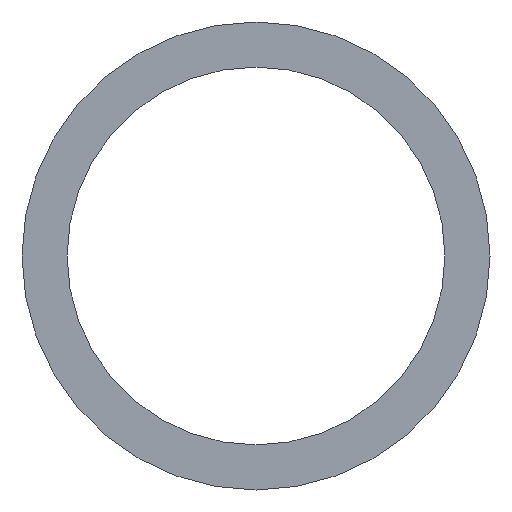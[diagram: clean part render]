
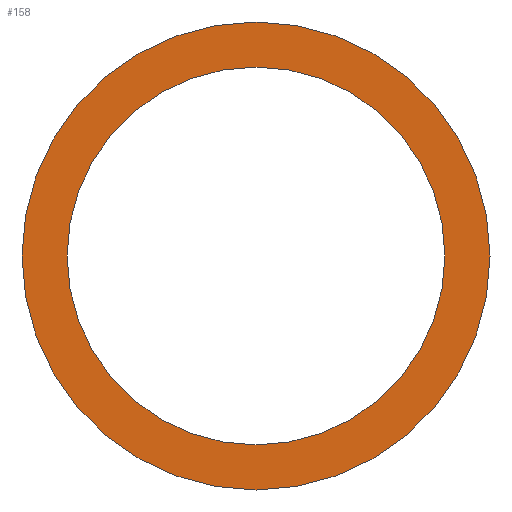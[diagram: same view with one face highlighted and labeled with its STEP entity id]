
A CAD part, front view. The second image highlights one B-rep face of the part: STEP entity #158.
In plain terms, the highlighted planar face has unit normal (0, -1, 0).
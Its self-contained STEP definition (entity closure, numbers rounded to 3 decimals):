
#49 = CYLINDRICAL_SURFACE('',#50,21.8);
#50 = AXIS2_PLACEMENT_3D('',#51,#52,#53);
#51 = CARTESIAN_POINT('',(0.,-39.2,46.5));
#52 = DIRECTION('',(0.,1.,0.));
#53 = DIRECTION('',(0.,-0.,1.));
#74 = VERTEX_POINT('',#75);
#75 = CARTESIAN_POINT('',(0.,-39.2,68.3));
#96 = EDGE_CURVE('',#74,#74,#97,.T.);
#97 = SURFACE_CURVE('',#98,(#103,#110),.PCURVE_S1.);
#98 = CIRCLE('',#99,21.8);
#99 = AXIS2_PLACEMENT_3D('',#100,#101,#102);
#100 = CARTESIAN_POINT('',(0.,-39.2,46.5));
#101 = DIRECTION('',(0.,1.,0.));
#102 = DIRECTION('',(0.,-0.,1.));
#103 = PCURVE('',#49,#104);
#104 = DEFINITIONAL_REPRESENTATION('',(#105),#109);
#105 = LINE('',#106,#107);
#106 = CARTESIAN_POINT('',(0.,0.));
#107 = VECTOR('',#108,1.);
#108 = DIRECTION('',(1.,0.));
#109 = ( GEOMETRIC_REPRESENTATION_CONTEXT(2) 
PARAMETRIC_REPRESENTATION_CONTEXT() REPRESENTATION_CONTEXT('2D SPACE',''
  ) );
#110 = PCURVE('',#111,#116);
#111 = PLANE('',#112);
#112 = AXIS2_PLACEMENT_3D('',#113,#114,#115);
#113 = CARTESIAN_POINT('',(0.,-39.2,46.5));
#114 = DIRECTION('',(0.,1.,0.));
#115 = DIRECTION('',(0.,-0.,1.));
#116 = DEFINITIONAL_REPRESENTATION('',(#117),#121);
#117 = CIRCLE('',#118,21.8);
#118 = AXIS2_PLACEMENT_2D('',#119,#120);
#119 = CARTESIAN_POINT('',(0.,0.));
#120 = DIRECTION('',(1.,0.));
#121 = ( GEOMETRIC_REPRESENTATION_CONTEXT(2) 
PARAMETRIC_REPRESENTATION_CONTEXT() REPRESENTATION_CONTEXT('2D SPACE',''
  ) );
#147 = CYLINDRICAL_SURFACE('',#148,17.6);
#148 = AXIS2_PLACEMENT_3D('',#149,#150,#151);
#149 = CARTESIAN_POINT('',(0.,-39.21,46.5));
#150 = DIRECTION('',(0.,1.,0.));
#151 = DIRECTION('',(0.,-0.,1.));
#158 = ADVANCED_FACE('',(#159,#162),#111,.F.);
#159 = FACE_BOUND('',#160,.F.);
#160 = EDGE_LOOP('',(#161));
#161 = ORIENTED_EDGE('',*,*,#96,.T.);
#162 = FACE_BOUND('',#163,.F.);
#163 = EDGE_LOOP('',(#164));
#164 = ORIENTED_EDGE('',*,*,#165,.F.);
#165 = EDGE_CURVE('',#166,#166,#168,.T.);
#166 = VERTEX_POINT('',#167);
#167 = CARTESIAN_POINT('',(0.,-39.2,64.1));
#168 = SURFACE_CURVE('',#169,(#174,#181),.PCURVE_S1.);
#169 = CIRCLE('',#170,17.6);
#170 = AXIS2_PLACEMENT_3D('',#171,#172,#173);
#171 = CARTESIAN_POINT('',(0.,-39.2,46.5));
#172 = DIRECTION('',(0.,1.,0.));
#173 = DIRECTION('',(0.,-0.,1.));
#174 = PCURVE('',#111,#175);
#175 = DEFINITIONAL_REPRESENTATION('',(#176),#180);
#176 = CIRCLE('',#177,17.6);
#177 = AXIS2_PLACEMENT_2D('',#178,#179);
#178 = CARTESIAN_POINT('',(0.,0.));
#179 = DIRECTION('',(1.,0.));
#180 = ( GEOMETRIC_REPRESENTATION_CONTEXT(2) 
PARAMETRIC_REPRESENTATION_CONTEXT() REPRESENTATION_CONTEXT('2D SPACE',''
  ) );
#181 = PCURVE('',#147,#182);
#182 = DEFINITIONAL_REPRESENTATION('',(#183),#187);
#183 = LINE('',#184,#185);
#184 = CARTESIAN_POINT('',(0.,0.01));
#185 = VECTOR('',#186,1.);
#186 = DIRECTION('',(1.,0.));
#187 = ( GEOMETRIC_REPRESENTATION_CONTEXT(2) 
PARAMETRIC_REPRESENTATION_CONTEXT() REPRESENTATION_CONTEXT('2D SPACE',''
  ) );
